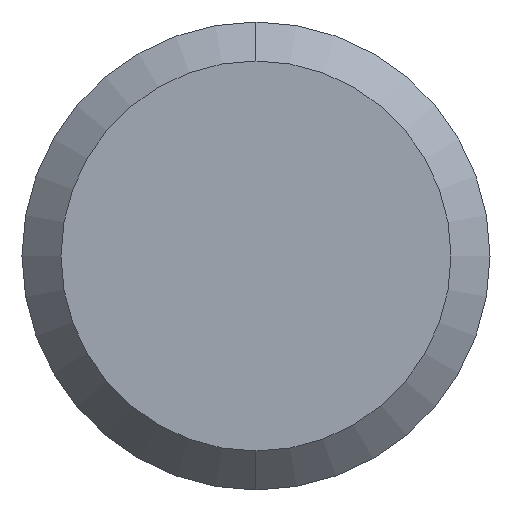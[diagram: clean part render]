
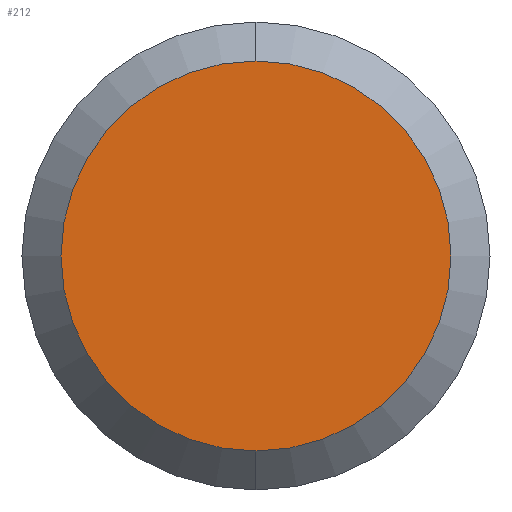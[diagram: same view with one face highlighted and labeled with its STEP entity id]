
A CAD part, left-side view. The second image highlights one B-rep face of the part: STEP entity #212.
In plain terms, the highlighted planar face has unit normal (-1, 0, 0).
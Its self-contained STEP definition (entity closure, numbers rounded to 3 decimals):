
#13 = ORIENTED_EDGE ( 'NONE', *, *, #46, .T. ) ;
#35 = CARTESIAN_POINT ( 'NONE',  ( -108.4, 0., 0. ) ) ;
#43 = DIRECTION ( 'NONE',  ( -1., 0., 0. ) ) ;
#44 = DIRECTION ( 'NONE',  ( 0., 0., -1. ) ) ;
#46 = EDGE_CURVE ( 'NONE', #386, #273, #85, .T. ) ;
#55 = AXIS2_PLACEMENT_3D ( 'NONE', #35, #165, #167 ) ;
#85 = CIRCLE ( 'NONE', #55, 5. ) ;
#141 = DIRECTION ( 'NONE',  ( 1., 0., 0. ) ) ;
#165 = DIRECTION ( 'NONE',  ( -1., 0., 0. ) ) ;
#167 = DIRECTION ( 'NONE',  ( 0., 0., -1. ) ) ;
#198 = CIRCLE ( 'NONE', #308, 5. ) ;
#207 = EDGE_CURVE ( 'NONE', #273, #386, #198, .T. ) ;
#212 = ADVANCED_FACE ( 'NONE', ( #264 ), #285, .F. ) ;
#214 = CARTESIAN_POINT ( 'NONE',  ( -108.4, 0., 0. ) ) ;
#216 = ORIENTED_EDGE ( 'NONE', *, *, #207, .T. ) ;
#237 = CARTESIAN_POINT ( 'NONE',  ( -108.4, 6., 0. ) ) ;
#264 = FACE_OUTER_BOUND ( 'NONE', #297, .T. ) ;
#266 = CARTESIAN_POINT ( 'NONE',  ( -108.4, 0., -5. ) ) ;
#268 = CARTESIAN_POINT ( 'NONE',  ( -108.4, 0., 5. ) ) ;
#273 = VERTEX_POINT ( 'NONE', #268 ) ;
#279 = AXIS2_PLACEMENT_3D ( 'NONE', #237, #141, #289 ) ;
#285 = PLANE ( 'NONE',  #279 ) ;
#289 = DIRECTION ( 'NONE',  ( 0., 0., -1. ) ) ;
#297 = EDGE_LOOP ( 'NONE', ( #13, #216 ) ) ;
#308 = AXIS2_PLACEMENT_3D ( 'NONE', #214, #43, #44 ) ;
#386 = VERTEX_POINT ( 'NONE', #266 ) ;
